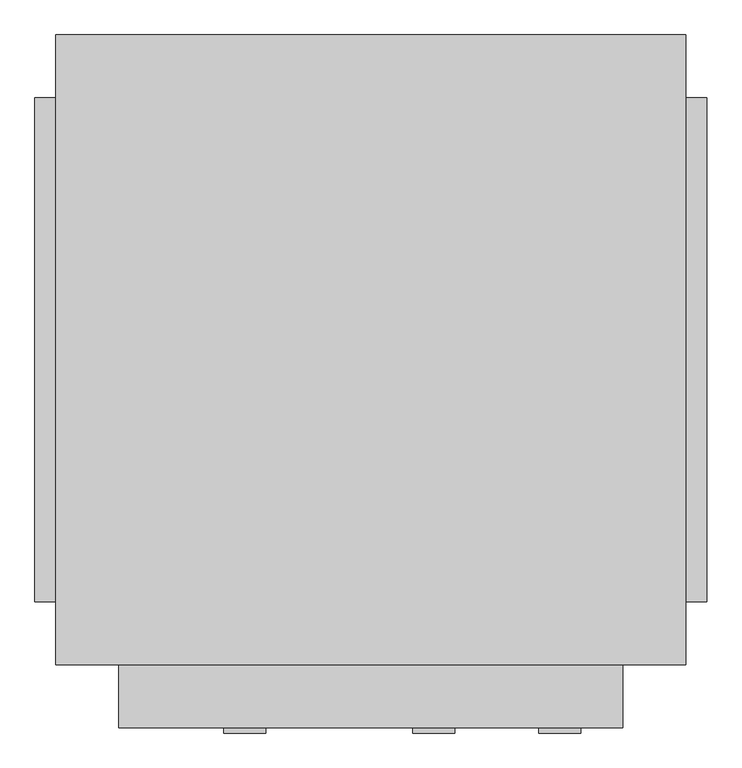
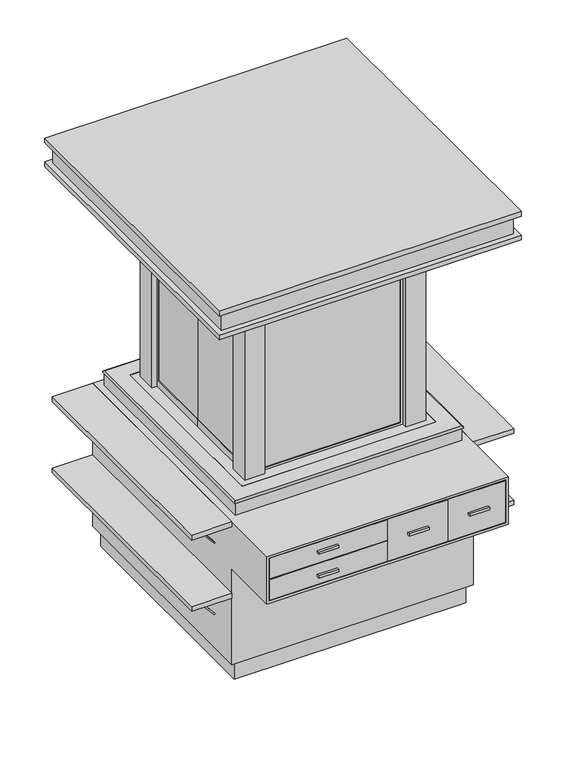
"""IFC4 building model written with IfcOpenShell, lengths in millimetres: furniture geometry, Mall_Kiosk_12196 : Mall_Kiosk_12196."""

from ifc_helpers import new_model, si_unit, point, frame, frame_2d, origin, origin_with_axes, place, context, project, spatial, polyline, circle_curve, ellipse_curve, trimmed, segment, composite_curve, outline, extrude, source, transform, mapped, element, save
from ifc_brep_helpers import plane_surface, cylinder_surface, advanced_brep


def furniture_c6f59ad9(model_context):
    return source(origin(), model_context, "Body", "SolidModel", [
        extrude(outline(composite_curve([segment(polyline([(-177.8, 488.95), (787.4, 488.95)]), True, "CONTINUOUS"), segment(trimmed(circle_curve(frame_2d((787.4, 482.6)), 6.35), [point((787.4, 488.95))], [point((793.75, 482.6))], False, "CARTESIAN"), True, "CONTINUOUS"), segment(polyline([(793.75, 482.6), (793.75, -482.6)]), True, "CONTINUOUS"), segment(trimmed(circle_curve(frame_2d((787.4, -482.6)), 6.35), [point((793.75, -482.6))], [point((787.4, -488.95))], False, "CARTESIAN"), True, "CONTINUOUS"), segment(polyline([(787.4, -488.95), (-177.8, -488.95)]), True, "CONTINUOUS"), segment(trimmed(circle_curve(frame_2d((-177.8, -482.6)), 6.35), [point((-177.8, -488.95))], [point((-184.15, -482.6))], False, "CARTESIAN"), True, "CONTINUOUS"), segment(polyline([(-184.15, -482.6), (-184.15, 482.6)]), True, "CONTINUOUS"), segment(trimmed(circle_curve(frame_2d((-177.8, 482.6)), 6.35), [point((-184.15, 482.6))], [point((-177.8, 488.95))], False, "CARTESIAN"), True, "CONTINUOUS")], self_intersect=False)), origin_with_axes(), (0.0, 0.0, 1.0), 939.8),
        extrude(outline(polyline([(-457.2, 762.0), (1066.8, 762.0), (1066.8, -762.0), (-457.2, -762.0), (-457.2, 762.0)])), frame((0.0, 0.0, 2108.2), z_axis=(0.0, 0.0, 1.0), x_axis=(1.0, 0.0, 0.0)), (0.0, 0.0, 1.0), 25.4),
        extrude(outline(polyline([(-457.2, 762.0), (1066.8, 762.0), (1066.8, -762.0), (-457.2, -762.0), (-457.2, 762.0)]), holes=[composite_curve([segment(trimmed(circle_curve(frame_2d((304.8, 558.8)), 50.8), [point((355.6, 558.8))], [point((254.0, 558.8))], True, "CARTESIAN"), True, "CONTINUOUS"), segment(trimmed(circle_curve(frame_2d((304.8, 558.8)), 50.8), [point((254.0, 558.8))], [point((355.6, 558.8))], True, "CARTESIAN"), True, "CONTINUOUS")], self_intersect=False), composite_curve([segment(trimmed(circle_curve(frame_2d((863.6, 0.0)), 50.8), [point((914.4, 0.0))], [point((812.8, 0.0))], True, "CARTESIAN"), True, "CONTINUOUS"), segment(trimmed(circle_curve(frame_2d((863.6, 0.0)), 50.8), [point((812.8, 0.0))], [point((914.4, 0.0))], True, "CARTESIAN"), True, "CONTINUOUS")], self_intersect=False), composite_curve([segment(trimmed(circle_curve(frame_2d((-254.0, 0.0)), 50.8), [point((-203.2, 0.0))], [point((-304.8, 0.0))], True, "CARTESIAN"), True, "CONTINUOUS"), segment(trimmed(circle_curve(frame_2d((-254.0, 0.0)), 50.8), [point((-304.8, 0.0))], [point((-203.2, 0.0))], True, "CARTESIAN"), True, "CONTINUOUS")], self_intersect=False), composite_curve([segment(trimmed(circle_curve(frame_2d((304.8, -558.8)), 50.8), [point((355.6, -558.8))], [point((254.0, -558.8))], True, "CARTESIAN"), True, "CONTINUOUS"), segment(trimmed(circle_curve(frame_2d((304.8, -558.8)), 50.8), [point((254.0, -558.8))], [point((355.6, -558.8))], True, "CARTESIAN"), True, "CONTINUOUS")], self_intersect=False)]), frame((0.0, 0.0, 1981.2), z_axis=(0.0, 0.0, 1.0), x_axis=(1.0, 0.0, 0.0)), (0.0, 0.0, 1.0), 25.4),
        extrude(outline(polyline([(-431.8, 736.6), (1041.4, 736.6), (1041.4, -736.6), (-431.8, -736.6), (-431.8, 736.6)])), frame((0.0, 0.0, 2006.6), z_axis=(0.0, 0.0, 1.0), x_axis=(1.0, 0.0, 0.0)), (0.0, 0.0, 1.0), 101.6),
        extrude(outline(composite_curve([segment(trimmed(circle_curve(frame_2d((304.8, 558.8)), 50.8), [point((355.6, 558.8))], [point((254.0, 558.8))], False, "CARTESIAN"), True, "CONTINUOUS"), segment(trimmed(circle_curve(frame_2d((304.8, 558.8)), 50.8), [point((254.0, 558.8))], [point((355.6, 558.8))], False, "CARTESIAN"), True, "CONTINUOUS")], self_intersect=False)), frame((0.0, 0.0, 1981.2), z_axis=(0.0, 0.0, 1.0), x_axis=(1.0, 0.0, 0.0)), (0.0, 0.0, 1.0), 25.4),
        extrude(outline(composite_curve([segment(trimmed(circle_curve(frame_2d((863.6, 0.0)), 50.8), [point((914.4, 0.0))], [point((812.8, 0.0))], False, "CARTESIAN"), True, "CONTINUOUS"), segment(trimmed(circle_curve(frame_2d((863.6, 0.0)), 50.8), [point((812.8, 0.0))], [point((914.4, 0.0))], False, "CARTESIAN"), True, "CONTINUOUS")], self_intersect=False)), frame((0.0, 0.0, 1981.2), z_axis=(0.0, 0.0, 1.0), x_axis=(1.0, 0.0, 0.0)), (0.0, 0.0, 1.0), 25.4),
        extrude(outline(composite_curve([segment(trimmed(circle_curve(frame_2d((304.8, -558.8)), 50.8), [point((355.6, -558.8))], [point((254.0, -558.8))], False, "CARTESIAN"), True, "CONTINUOUS"), segment(trimmed(circle_curve(frame_2d((304.8, -558.8)), 50.8), [point((254.0, -558.8))], [point((355.6, -558.8))], False, "CARTESIAN"), True, "CONTINUOUS")], self_intersect=False)), frame((0.0, 0.0, 1981.2), z_axis=(0.0, 0.0, 1.0), x_axis=(1.0, 0.0, 0.0)), (0.0, 0.0, 1.0), 25.4),
        extrude(outline(composite_curve([segment(trimmed(circle_curve(frame_2d((-254.0, 0.0)), 50.8), [point((-203.2, 0.0))], [point((-304.8, 0.0))], False, "CARTESIAN"), True, "CONTINUOUS"), segment(trimmed(circle_curve(frame_2d((-254.0, 0.0)), 50.8), [point((-304.8, 0.0))], [point((-203.2, 0.0))], False, "CARTESIAN"), True, "CONTINUOUS")], self_intersect=False)), frame((0.0, 0.0, 1981.2), z_axis=(0.0, 0.0, 1.0), x_axis=(1.0, 0.0, 0.0)), (0.0, 0.0, 1.0), 25.4),
        extrude(outline(polyline([(-152.4, 457.2), (-50.8, 457.2), (-50.8, 355.6), (-152.4, 355.6), (-152.4, 457.2)])), frame((0.0, 0.0, 939.8), z_axis=(0.0, 0.0, 1.0), x_axis=(1.0, 0.0, 0.0)), (0.0, 0.0, 1.0), 1041.4),
        extrude(outline(polyline([(762.0, 457.2), (762.0, 355.6), (660.4, 355.6), (660.4, 457.2), (762.0, 457.2)])), frame((0.0, 0.0, 939.8), z_axis=(0.0, 0.0, 1.0), x_axis=(1.0, 0.0, 0.0)), (0.0, 0.0, 1.0), 1041.4),
        extrude(outline(polyline([(660.4, -457.2), (660.4, -355.6), (762.0, -355.6), (762.0, -457.2), (660.4, -457.2)])), frame((0.0, 0.0, 939.8), z_axis=(0.0, 0.0, 1.0), x_axis=(1.0, 0.0, 0.0)), (0.0, 0.0, 1.0), 1041.4),
        extrude(outline(polyline([(-152.4, -355.6), (-50.8, -355.6), (-50.8, -457.2), (-152.4, -457.2), (-152.4, -355.6)])), frame((0.0, 0.0, 939.8), z_axis=(0.0, 0.0, 1.0), x_axis=(1.0, 0.0, 0.0)), (0.0, 0.0, 1.0), 1041.4),
        extrude(outline(polyline([(1981.2, 660.4), (1981.2, -50.8), (939.8, -50.8), (939.8, 660.4), (1981.2, 660.4)]), holes=[polyline([(1968.5, 647.7), (952.5, 647.7), (952.5, -38.1), (1968.5, -38.1), (1968.5, 647.7)])]), frame((0.0, 419.1, 0.0), z_axis=(0.0, 1.0, 0.0), x_axis=(0.0, 0.0, 1.0)), (0.0, 0.0, 1.0), 12.7),
        extrude(outline(polyline([(-38.1, 428.625), (647.7, 428.625), (647.7, 422.275), (-38.1, 422.275), (-38.1, 428.625)])), frame((0.0, 0.0, 952.5), z_axis=(0.0, 0.0, 1.0), x_axis=(1.0, 0.0, 0.0)), (0.0, 0.0, 1.0), 1016.0),
        extrude(outline(polyline([(1981.2, 660.4), (1981.2, -50.8), (939.8, -50.8), (939.8, 660.4), (1981.2, 660.4)]), holes=[polyline([(1968.5, -38.1), (1968.5, 647.7), (952.5, 647.7), (952.5, -38.1), (1968.5, -38.1)])]), frame((0.0, -431.8, 0.0), z_axis=(0.0, 1.0, 0.0), x_axis=(0.0, 0.0, 1.0)), (0.0, 0.0, 1.0), 12.7),
        extrude(outline(polyline([(647.7, -428.625), (-38.1, -428.625), (-38.1, -422.275), (647.7, -422.275), (647.7, -428.625)])), frame((0.0, 0.0, 952.5), z_axis=(0.0, 0.0, 1.0), x_axis=(1.0, 0.0, 0.0)), (0.0, 0.0, 1.0), 1016.0),
        extrude(outline(polyline([(355.6, 1981.2), (355.6, 939.8), (3.175, 939.8), (3.175, 977.9), (342.9, 977.9), (342.9, 1968.5), (3.175, 1968.5), (3.175, 1981.2), (355.6, 1981.2)])), frame((-127.0, 0.0, 0.0), z_axis=(1.0, 0.0, 0.0), x_axis=(0.0, 1.0, 0.0)), (0.0, 0.0, 1.0), 12.7),
        extrude(outline(polyline([(-355.6, 1981.2), (-3.175, 1981.2), (-3.175, 1968.5), (-342.9, 1968.5), (-342.9, 977.9), (-3.175, 977.9), (-3.175, 939.8), (-355.6, 939.8), (-355.6, 1981.2)])), frame((-127.0, 0.0, 0.0), z_axis=(1.0, 0.0, 0.0), x_axis=(0.0, 1.0, 0.0)), (0.0, 0.0, 1.0), 12.7),
        extrude(outline(polyline([(-117.475, 342.9), (-117.475, 3.175), (-123.825, 3.175), (-123.825, 342.9), (-117.475, 342.9)])), frame((0.0, 0.0, 977.9), z_axis=(0.0, 0.0, 1.0), x_axis=(1.0, 0.0, 0.0)), (0.0, 0.0, 1.0), 990.6),
        extrude(outline(polyline([(-117.475, -3.175), (-117.475, -342.9), (-123.825, -342.9), (-123.825, -3.175), (-117.475, -3.175)])), frame((0.0, 0.0, 977.9), z_axis=(0.0, 0.0, 1.0), x_axis=(1.0, 0.0, 0.0)), (0.0, 0.0, 1.0), 990.6),
        extrude(outline(polyline([(-355.6, 1981.2), (-3.175, 1981.2), (-3.175, 1968.5), (-342.9, 1968.5), (-342.9, 977.9), (-3.175, 977.9), (-3.175, 939.8), (-355.6, 939.8), (-355.6, 1981.2)])), frame((723.9, 0.0, 0.0), z_axis=(1.0, 0.0, 0.0), x_axis=(0.0, 1.0, 0.0)), (0.0, 0.0, 1.0), 12.7),
        extrude(outline(polyline([(355.6, 1981.2), (355.6, 939.8), (3.175, 939.8), (3.175, 977.9), (342.9, 977.9), (342.9, 1968.5), (3.175, 1968.5), (3.175, 1981.2), (355.6, 1981.2)])), frame((723.9, 0.0, 0.0), z_axis=(1.0, 0.0, 0.0), x_axis=(0.0, 1.0, 0.0)), (0.0, 0.0, 1.0), 12.7),
        extrude(outline(polyline([(733.425, -3.175), (733.425, -342.9), (727.075, -342.9), (727.075, -3.175), (733.425, -3.175)])), frame((0.0, 0.0, 977.9), z_axis=(0.0, 0.0, 1.0), x_axis=(1.0, 0.0, 0.0)), (0.0, 0.0, 1.0), 990.6),
        extrude(outline(polyline([(733.425, 342.9), (733.425, 3.175), (727.075, 3.175), (727.075, 342.9), (733.425, 342.9)])), frame((0.0, 0.0, 977.9), z_axis=(0.0, 0.0, 1.0), x_axis=(1.0, 0.0, 0.0)), (0.0, 0.0, 1.0), 990.6),
        extrude(outline(polyline([(381.0, -76.2), (228.6, -76.2), (228.6, 76.2), (381.0, 76.2), (381.0, -76.2)])), frame((0.0, 0.0, 939.8), z_axis=(0.0, 0.0, 1.0), x_axis=(1.0, 0.0, 0.0)), (0.0, 0.0, 1.0), 1041.4),
        extrude(outline(polyline([(508.0, 203.2), (508.0, -203.2), (101.6, -203.2), (101.6, 203.2), (508.0, 203.2)])), frame((0.0, 0.0, 1608.6666667), z_axis=(0.0, 0.0, 1.0), x_axis=(1.0, 0.0, 0.0)), (0.0, 0.0, 1.0), 25.4),
        extrude(outline(polyline([(609.6, 304.8), (609.6, -304.8), (0.0, -304.8), (0.0, 304.8), (609.6, 304.8)])), frame((0.0, 0.0, 1261.5333333), z_axis=(0.0, 0.0, 1.0), x_axis=(1.0, 0.0, 0.0)), (0.0, 0.0, 1.0), 25.4),
        extrude(outline(polyline([(-508.0, 609.6), (-304.8, 609.6), (-304.8, -609.6), (-508.0, -609.6), (-508.0, 609.6)])), frame((0.0, 0.0, 838.2), z_axis=(0.0, 0.0, 1.0), x_axis=(1.0, 0.0, 0.0)), (0.0, 0.0, 1.0), 25.4),
        extrude(outline(polyline([(914.4, 609.6), (1117.6, 609.6), (1117.6, -609.6), (914.4, -609.6), (914.4, 609.6)])), frame((0.0, 0.0, 838.2), z_axis=(0.0, 0.0, 1.0), x_axis=(1.0, 0.0, 0.0)), (0.0, 0.0, 1.0), 25.4),
        extrude(outline(polyline([(-508.0, 609.6), (-304.8, 609.6), (-304.8, -609.6), (-508.0, -609.6), (-508.0, 609.6)])), frame((0.0, 0.0, 457.2), z_axis=(0.0, 0.0, 1.0), x_axis=(1.0, 0.0, 0.0)), (0.0, 0.0, 1.0), 25.4),
        extrude(outline(polyline([(914.4, 609.6), (1117.6, 609.6), (1117.6, -609.6), (914.4, -609.6), (914.4, 609.6)])), frame((0.0, 0.0, 457.2), z_axis=(0.0, 0.0, 1.0), x_axis=(1.0, 0.0, 0.0)), (0.0, 0.0, 1.0), 25.4),
        extrude(outline(polyline([(665.2786756, -304.8), (838.2, -453.018278), (838.2, -457.2), (833.3213244, -457.2), (660.4, -308.981722), (660.4, -304.8), (665.2786756, -304.8)])), frame((0.0, 454.025, 0.0), z_axis=(0.0, 1.0, 0.0), x_axis=(0.0, 0.0, 1.0)), (0.0, 0.0, 1.0), 6.35),
        extrude(outline(polyline([(284.2786756, -304.8), (457.2, -453.018278), (457.2, -457.2), (452.3213244, -457.2), (279.4, -308.981722), (279.4, -304.8), (284.2786756, -304.8)])), frame((0.0, 454.025, 0.0), z_axis=(0.0, 1.0, 0.0), x_axis=(0.0, 0.0, 1.0)), (0.0, 0.0, 1.0), 6.35),
        extrude(outline(polyline([(665.2786756, 914.4), (660.4, 914.4), (660.4, 918.581722), (833.3213244, 1066.8), (838.2, 1066.8), (838.2, 1062.618278), (665.2786756, 914.4)])), frame((0.0, 454.025, 0.0), z_axis=(0.0, 1.0, 0.0), x_axis=(0.0, 0.0, 1.0)), (0.0, 0.0, 1.0), 6.35),
        extrude(outline(polyline([(284.2786756, 914.4), (279.4, 914.4), (279.4, 918.581722), (452.3213244, 1066.8), (457.2, 1066.8), (457.2, 1062.618278), (284.2786756, 914.4)])), frame((0.0, 454.025, 0.0), z_axis=(0.0, 1.0, 0.0), x_axis=(0.0, 0.0, 1.0)), (0.0, 0.0, 1.0), 6.35),
        extrude(outline(polyline([(838.2, -457.2), (833.3213244, -457.2), (660.4, -308.981722), (660.4, -304.8), (665.2786756, -304.8), (838.2, -453.018278), (838.2, -457.2)])), frame((0.0, -460.375, 0.0), z_axis=(0.0, 1.0, 0.0), x_axis=(0.0, 0.0, 1.0)), (0.0, 0.0, 1.0), 6.35),
        extrude(outline(polyline([(457.2, -457.2), (452.3213244, -457.2), (279.4, -308.981722), (279.4, -304.8), (284.2786756, -304.8), (457.2, -453.018278), (457.2, -457.2)])), frame((0.0, -460.375, 0.0), z_axis=(0.0, 1.0, 0.0), x_axis=(0.0, 0.0, 1.0)), (0.0, 0.0, 1.0), 6.35),
        extrude(outline(polyline([(838.2, 1066.8), (838.2, 1062.618278), (665.2786756, 914.4), (660.4, 914.4), (660.4, 918.581722), (833.3213244, 1066.8), (838.2, 1066.8)])), frame((0.0, -460.375, 0.0), z_axis=(0.0, 1.0, 0.0), x_axis=(0.0, 0.0, 1.0)), (0.0, 0.0, 1.0), 6.35),
        extrude(outline(polyline([(457.2, 1066.8), (457.2, 1062.618278), (284.2786756, 914.4), (279.4, 914.4), (279.4, 918.581722), (452.3213244, 1066.8), (457.2, 1066.8)])), frame((0.0, -460.375, 0.0), z_axis=(0.0, 1.0, 0.0), x_axis=(0.0, 0.0, 1.0)), (0.0, 0.0, 1.0), 6.35),
        advanced_brep(
        [(914.4, 609.6, 863.6), (914.4, 609.6, 101.6), (-304.8, 609.6, 101.6), (-304.8, 609.6, 863.6), (876.3, 571.5, 927.1), (876.3, 571.5, 863.6), (-266.7, 571.5, 863.6), (-266.7, 571.5, 927.1), (-266.7, 571.5, 939.8), (876.3, 571.5, 939.8), (793.75, 488.95, 0.0), (793.75, 488.95, 939.8), (-184.15, 488.95, 939.8), (-184.15, 488.95, 0.0), (889.0, 584.2, 101.6), (889.0, 584.2, 0.0), (-279.4, 584.2, 0.0), (-279.4, 584.2, 101.6), (-304.8, -609.6, 101.6), (-304.8, -609.6, 609.6), (-304.8, -914.4, 609.6), (-304.8, -914.4, 863.6), (-266.7, -571.5, 863.6), (-266.7, -571.5, 927.1), (-266.7, -571.5, 939.8), (-184.15, -488.95, 939.8), (-184.15, -488.95, 0.0), (-279.4, -584.2, 0.0), (-279.4, -584.2, 101.6), (914.4, -609.6, 101.6), (914.4, -609.6, 609.6), (901.7, -609.6, 850.9), (-292.1, -609.6, 850.9), (-292.1, -609.6, 622.3), (901.7, -609.6, 622.3), (876.3, -571.5, 863.6), (876.3, -571.5, 927.1), (876.3, -571.5, 939.8), (793.75, -488.95, 939.8), (793.75, -488.95, 0.0), (889.0, -584.2, 0.0), (889.0, -584.2, 101.6), (914.4, -914.4, 863.6), (914.4, -914.4, 609.6), (901.7, -914.4, 850.9), (901.7, -914.4, 622.3), (-292.1, -914.4, 622.3), (-292.1, -914.4, 850.9)],
        [
            (0, 1),
            (1, 2),
            (2, 3),
            (3, 0),
            (4, 5),
            (5, 6),
            (6, 7),
            (7, 4),
            (7, 8, ellipse_curve(frame((-266.7, 571.5, 933.45), z_axis=(0.7071067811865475, 0.7071067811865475, 0.0), x_axis=(0.7071067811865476, -0.7071067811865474, 0.0)), 8.9802561, 6.35)),
            (8, 9),
            (9, 4, ellipse_curve(frame((876.3, 571.5, 933.45), z_axis=(-0.7071067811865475, 0.7071067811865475, 0.0), x_axis=(0.7071067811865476, 0.7071067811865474, 0.0)), 8.9802561, 6.35)),
            (10, 11),
            (11, 12),
            (12, 13),
            (13, 10),
            (14, 15),
            (15, 16),
            (16, 17),
            (17, 14),
            (2, 18),
            (18, 19),
            (19, 20),
            (20, 21),
            (21, 3),
            (6, 22),
            (22, 23),
            (23, 7),
            (23, 24, ellipse_curve(frame((-266.7, -571.5, 933.45), z_axis=(-0.7071067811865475, 0.7071067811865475, 0.0), x_axis=(0.7071067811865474, 0.7071067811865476, 0.0)), 8.9802561, 6.35)),
            (24, 8),
            (12, 25),
            (25, 26),
            (26, 13),
            (16, 27),
            (27, 28),
            (28, 17),
            (18, 29),
            (29, 30),
            (30, 19),
            (31, 32),
            (32, 33),
            (33, 34),
            (34, 31),
            (22, 35),
            (35, 36),
            (36, 23),
            (36, 37, ellipse_curve(frame((876.3, -571.5, 933.45), z_axis=(-0.7071067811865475, -0.7071067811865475, 0.0), x_axis=(-0.7071067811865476, 0.7071067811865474, 0.0)), 8.9802561, 6.35)),
            (37, 24),
            (25, 38),
            (38, 39),
            (39, 26),
            (27, 40),
            (40, 41),
            (41, 28),
            (1, 29),
            (41, 14),
            (0, 42),
            (42, 43),
            (43, 30),
            (21, 42),
            (5, 35),
            (4, 36),
            (9, 37),
            (11, 38),
            (10, 39),
            (15, 40),
            (20, 43),
            (44, 45),
            (45, 46),
            (46, 47),
            (47, 44),
            (47, 32),
            (31, 44),
            (46, 33),
            (45, 34),
        ],
        [
            plane_surface(frame((914.4, 609.6, 101.6), z_axis=(0.0, 1.0, 0.0), x_axis=(-1.0, 0.0, 0.0))),
            plane_surface(frame((876.3, 571.5, 863.6), z_axis=(0.0, 1.0, 0.0), x_axis=(-1.0, 0.0, 0.0))),
            cylinder_surface(frame((914.4, 571.5, 933.45), z_axis=(1.0, 0.0, 0.0), x_axis=(0.0, -1.0, 0.0)), 6.35),
            plane_surface(frame((793.75, 488.95, 939.8), z_axis=(0.0, -1.0, 0.0), x_axis=(-1.0, 0.0, 0.0))),
            plane_surface(frame((889.0, 584.2, 0.0), z_axis=(0.0, 1.0, 0.0), x_axis=(-1.0, 0.0, 0.0))),
            plane_surface(frame((-304.8, 609.6, 101.6), z_axis=(-1.0, 0.0, 0.0), x_axis=(0.0, -1.0, 0.0))),
            plane_surface(frame((-266.7, 571.5, 863.6), z_axis=(-1.0, 0.0, 0.0), x_axis=(0.0, -1.0, 0.0))),
            cylinder_surface(frame((-266.7, 609.6, 933.45), z_axis=(0.0, 1.0, 0.0), x_axis=(1.0, 0.0, 0.0)), 6.35),
            plane_surface(frame((-184.15, 488.95, 939.8), z_axis=(1.0, 0.0, 0.0), x_axis=(0.0, -1.0, 0.0))),
            plane_surface(frame((-279.4, 584.2, 0.0), z_axis=(-1.0, 0.0, 0.0), x_axis=(0.0, -1.0, 0.0))),
            plane_surface(frame((-304.8, -609.6, 101.6), z_axis=(0.0, -1.0, 0.0), x_axis=(1.0, 0.0, 0.0))),
            plane_surface(frame((-266.7, -571.5, 863.6), z_axis=(0.0, -1.0, 0.0), x_axis=(1.0, 0.0, 0.0))),
            cylinder_surface(frame((-304.8, -571.5, 933.45), z_axis=(-1.0, 0.0, 0.0), x_axis=(0.0, 1.0, 0.0)), 6.35),
            plane_surface(frame((-184.15, -488.95, 939.8), z_axis=(0.0, 1.0, 0.0), x_axis=(1.0, 0.0, 0.0))),
            plane_surface(frame((-279.4, -584.2, 0.0), z_axis=(0.0, -1.0, 0.0), x_axis=(1.0, 0.0, 0.0))),
            plane_surface(frame((889.0, -584.2, 101.6), z_axis=(0.0, 0.0, -1.0), x_axis=(0.0, 1.0, 0.0))),
            plane_surface(frame((914.4, -609.6, 101.6), z_axis=(1.0, 0.0, 0.0), x_axis=(0.0, 1.0, 0.0))),
            plane_surface(frame((914.4, -609.6, 863.6), z_axis=(0.0, 0.0, 1.0), x_axis=(0.0, 1.0, 0.0))),
            plane_surface(frame((876.3, -571.5, 863.6), z_axis=(1.0, 0.0, 0.0), x_axis=(0.0, 1.0, 0.0))),
            cylinder_surface(frame((876.3, -609.6, 933.45), z_axis=(0.0, -1.0, 0.0), x_axis=(-1.0, 0.0, 0.0)), 6.35),
            plane_surface(frame((876.3, -571.5, 939.8), z_axis=(0.0, 0.0, 1.0), x_axis=(0.0, 1.0, 0.0))),
            plane_surface(frame((793.75, -488.95, 939.8), z_axis=(-1.0, 0.0, 0.0), x_axis=(0.0, 1.0, 0.0))),
            plane_surface(frame((793.75, -488.95, 0.0), z_axis=(0.0, 0.0, -1.0), x_axis=(0.0, 1.0, 0.0))),
            plane_surface(frame((889.0, -584.2, 0.0), z_axis=(1.0, 0.0, 0.0), x_axis=(0.0, 1.0, 0.0))),
            plane_surface(frame((914.4, -914.4, 863.6), z_axis=(0.0, -1.0, 0.0), x_axis=(0.0, 0.0, 1.0))),
            plane_surface(frame((914.4, -609.6, 609.6), z_axis=(0.0, 0.0, -1.0), x_axis=(0.0, -1.0, 0.0))),
            plane_surface(frame((901.7, -609.6, 850.9), z_axis=(0.0, 0.0, -1.0), x_axis=(0.0, -1.0, 0.0))),
            plane_surface(frame((-292.1, -609.6, 850.9), z_axis=(1.0, 0.0, 0.0), x_axis=(0.0, -1.0, 0.0))),
            plane_surface(frame((-292.1, -609.6, 622.3), z_axis=(0.0, 0.0, 1.0), x_axis=(0.0, -1.0, 0.0))),
            plane_surface(frame((901.7, -609.6, 622.3), z_axis=(-1.0, 0.0, 0.0), x_axis=(0.0, -1.0, 0.0))),
        ],
        [
            (0, [[1, 2, 3, 4]]),
            (1, [[5, 6, 7, 8]]),
            (2, [[-8, 9, 10, 11]]),
            (3, [[12, 13, 14, 15]]),
            (4, [[16, 17, 18, 19]]),
            (5, [[-3, 20, 21, 22, 23, 24]]),
            (6, [[-7, 25, 26, 27]]),
            (7, [[-9, -27, 28, 29]]),
            (8, [[-14, 30, 31, 32]]),
            (9, [[-18, 33, 34, 35]]),
            (10, [[36, 37, 38, -21]]),
            (10, [[39, 40, 41, 42]]),
            (11, [[-26, 43, 44, 45]]),
            (12, [[-28, -45, 46, 47]]),
            (13, [[-31, 48, 49, 50]]),
            (14, [[-34, 51, 52, 53]]),
            (15, [[-2, 54, -36, -20], [-19, -35, -53, 55]]),
            (16, [[-1, 56, 57, 58, -37, -54]]),
            (17, [[-56, -4, -24, 59], [-6, 60, -43, -25]]),
            (18, [[-5, 61, -44, -60]]),
            (19, [[-11, 62, -46, -61]]),
            (20, [[-10, -29, -47, -62], [-13, 63, -48, -30]]),
            (21, [[-12, 64, -49, -63]]),
            (22, [[-17, 65, -51, -33], [-15, -32, -50, -64]]),
            (23, [[-16, -55, -52, -65]]),
            (24, [[-59, -23, 66, -57], [67, 68, 69, 70]]),
            (25, [[-66, -22, -38, -58]]),
            (26, [[-70, 71, -39, 72]]),
            (27, [[-69, 73, -40, -71]]),
            (28, [[-68, 74, -41, -73]]),
            (29, [[-67, -72, -42, -74]]),
        ],
    ),
        extrude(outline(polyline([(-288.925, -609.6), (303.2125, -609.6), (303.2125, -914.4), (-288.925, -914.4), (-288.925, -609.6)])), frame((0.0, 0.0, 738.1875), z_axis=(0.0, 0.0, 1.0), x_axis=(1.0, 0.0, 0.0)), (0.0, 0.0, 1.0), 109.5375),
        extrude(outline(polyline([(-288.925, -609.6), (303.2125, -609.6), (303.2125, -914.4), (-288.925, -914.4), (-288.925, -609.6)])), frame((0.0, 0.0, 625.475), z_axis=(0.0, 0.0, 1.0), x_axis=(1.0, 0.0, 0.0)), (0.0, 0.0, 1.0), 109.5375),
        extrude(outline(polyline([(306.3875, -609.6), (608.0125, -609.6), (608.0125, -914.4), (306.3875, -914.4), (306.3875, -609.6)])), frame((0.0, 0.0, 625.475), z_axis=(0.0, 0.0, 1.0), x_axis=(1.0, 0.0, 0.0)), (0.0, 0.0, 1.0), 222.25),
        extrude(outline(polyline([(611.1875, -609.6), (898.525, -609.6), (898.525, -914.4), (611.1875, -914.4), (611.1875, -609.6)])), frame((0.0, 0.0, 625.475), z_axis=(0.0, 0.0, 1.0), x_axis=(1.0, 0.0, 0.0)), (0.0, 0.0, 1.0), 222.25),
        extrude(outline(polyline([(50.8, -927.1), (-50.8, -927.1), (-50.8, -914.4), (50.8, -914.4), (50.8, -927.1)])), frame((0.0, 0.0, 793.75), z_axis=(0.0, 0.0, 1.0), x_axis=(1.0, 0.0, 0.0)), (0.0, 0.0, 1.0), 12.7),
        extrude(outline(polyline([(50.8, -927.1), (-50.8, -927.1), (-50.8, -914.4), (50.8, -914.4), (50.8, -927.1)])), frame((0.0, 0.0, 666.75), z_axis=(0.0, 0.0, 1.0), x_axis=(1.0, 0.0, 0.0)), (0.0, 0.0, 1.0), 12.7),
        extrude(outline(polyline([(508.0, -927.1), (406.4, -927.1), (406.4, -914.4), (508.0, -914.4), (508.0, -927.1)])), frame((0.0, 0.0, 730.25), z_axis=(0.0, 0.0, 1.0), x_axis=(1.0, 0.0, 0.0)), (0.0, 0.0, 1.0), 12.7),
        extrude(outline(polyline([(812.8, -927.1), (711.2, -927.1), (711.2, -914.4), (812.8, -914.4), (812.8, -927.1)])), frame((0.0, 0.0, 730.25), z_axis=(0.0, 0.0, 1.0), x_axis=(1.0, 0.0, 0.0)), (0.0, 0.0, 1.0), 12.7),
    ])


if __name__ == "__main__":
    model = new_model("IFC4")
    model_context = context("Model", 3, world=origin())
    ifc_project = project(units=[si_unit("LENGTHUNIT", "METRE", prefix="MILLI")], contexts=[model_context])
    site = spatial("IfcSite", under=ifc_project)
    building = spatial("IfcBuilding", under=site)
    placement = place(None, origin())
    furniture_shape = furniture_c6f59ad9(model_context)
    element("IfcFurniture", 1, ObjectType="Mall_Kiosk_12196 : Mall_Kiosk_12196", at=placement, inside=building, context=model_context, shape_type="MappedRepresentation", body=[
        mapped(furniture_shape, transform((0.0, 0.0, 0.0), x_axis=(1.0, 0.0, 0.0), y_axis=(0.0, 1.0, 0.0), z_axis=(0.0, 0.0, 1.0))),
    ])
    save(model, "model.ifc")
